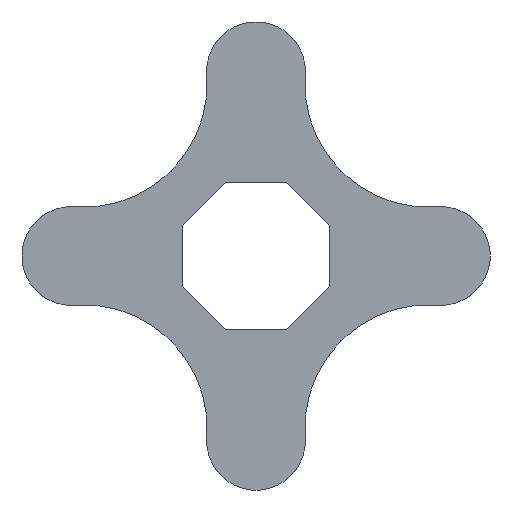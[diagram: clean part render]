
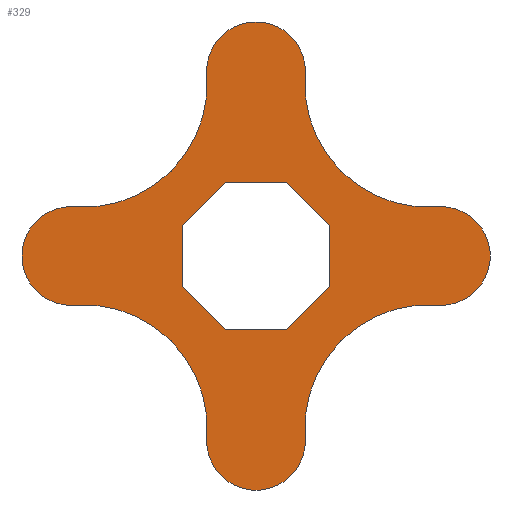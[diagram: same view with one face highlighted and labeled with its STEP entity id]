
A CAD part, front view. The second image highlights one B-rep face of the part: STEP entity #329.
In plain terms, the highlighted planar face has unit normal (0, -1, 0).
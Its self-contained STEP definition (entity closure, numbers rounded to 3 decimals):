
#23=FACE_BOUND('',#108,.T.);
#25=LINE('',#523,#57);
#26=LINE('',#525,#58);
#27=LINE('',#527,#59);
#28=LINE('',#529,#60);
#29=LINE('',#531,#61);
#30=LINE('',#533,#62);
#31=LINE('',#535,#63);
#32=LINE('',#536,#64);
#57=VECTOR('',#421,10.);
#58=VECTOR('',#422,10.);
#59=VECTOR('',#423,10.);
#60=VECTOR('',#424,10.);
#61=VECTOR('',#425,10.);
#62=VECTOR('',#426,10.);
#63=VECTOR('',#427,10.);
#64=VECTOR('',#428,10.);
#89=FACE_OUTER_BOUND('',#107,.T.);
#107=EDGE_LOOP('',(#223,#224,#225,#226,#227,#228,#229,#230));
#108=EDGE_LOOP('',(#231,#232,#233,#234,#235,#236,#237,#238));
#127=CIRCLE('',#368,20.);
#128=CIRCLE('',#369,50.);
#129=CIRCLE('',#370,20.);
#130=CIRCLE('',#371,50.);
#131=CIRCLE('',#372,20.);
#132=CIRCLE('',#373,50.);
#133=CIRCLE('',#374,20.);
#134=CIRCLE('',#375,50.);
#143=VERTEX_POINT('',#505);
#144=VERTEX_POINT('',#506);
#145=VERTEX_POINT('',#508);
#146=VERTEX_POINT('',#510);
#147=VERTEX_POINT('',#512);
#148=VERTEX_POINT('',#514);
#149=VERTEX_POINT('',#516);
#150=VERTEX_POINT('',#518);
#151=VERTEX_POINT('',#521);
#152=VERTEX_POINT('',#522);
#153=VERTEX_POINT('',#524);
#154=VERTEX_POINT('',#526);
#155=VERTEX_POINT('',#528);
#156=VERTEX_POINT('',#530);
#157=VERTEX_POINT('',#532);
#158=VERTEX_POINT('',#534);
#175=EDGE_CURVE('',#143,#144,#127,.T.);
#176=EDGE_CURVE('',#144,#145,#128,.T.);
#177=EDGE_CURVE('',#145,#146,#129,.T.);
#178=EDGE_CURVE('',#146,#147,#130,.T.);
#179=EDGE_CURVE('',#147,#148,#131,.T.);
#180=EDGE_CURVE('',#148,#149,#132,.T.);
#181=EDGE_CURVE('',#149,#150,#133,.T.);
#182=EDGE_CURVE('',#150,#143,#134,.T.);
#183=EDGE_CURVE('',#151,#152,#25,.T.);
#184=EDGE_CURVE('',#152,#153,#26,.T.);
#185=EDGE_CURVE('',#153,#154,#27,.T.);
#186=EDGE_CURVE('',#154,#155,#28,.T.);
#187=EDGE_CURVE('',#155,#156,#29,.T.);
#188=EDGE_CURVE('',#156,#157,#30,.T.);
#189=EDGE_CURVE('',#157,#158,#31,.T.);
#190=EDGE_CURVE('',#158,#151,#32,.T.);
#223=ORIENTED_EDGE('',*,*,#175,.T.);
#224=ORIENTED_EDGE('',*,*,#176,.T.);
#225=ORIENTED_EDGE('',*,*,#177,.T.);
#226=ORIENTED_EDGE('',*,*,#178,.T.);
#227=ORIENTED_EDGE('',*,*,#179,.T.);
#228=ORIENTED_EDGE('',*,*,#180,.T.);
#229=ORIENTED_EDGE('',*,*,#181,.T.);
#230=ORIENTED_EDGE('',*,*,#182,.T.);
#231=ORIENTED_EDGE('',*,*,#183,.T.);
#232=ORIENTED_EDGE('',*,*,#184,.T.);
#233=ORIENTED_EDGE('',*,*,#185,.T.);
#234=ORIENTED_EDGE('',*,*,#186,.T.);
#235=ORIENTED_EDGE('',*,*,#187,.T.);
#236=ORIENTED_EDGE('',*,*,#188,.T.);
#237=ORIENTED_EDGE('',*,*,#189,.T.);
#238=ORIENTED_EDGE('',*,*,#190,.T.);
#319=PLANE('',#367);
#329=ADVANCED_FACE('',(#89,#23),#319,.F.);
#367=AXIS2_PLACEMENT_3D('',#504,#403,#404);
#368=AXIS2_PLACEMENT_3D('',#507,#405,#406);
#369=AXIS2_PLACEMENT_3D('',#509,#407,#408);
#370=AXIS2_PLACEMENT_3D('',#511,#409,#410);
#371=AXIS2_PLACEMENT_3D('',#513,#411,#412);
#372=AXIS2_PLACEMENT_3D('',#515,#413,#414);
#373=AXIS2_PLACEMENT_3D('',#517,#415,#416);
#374=AXIS2_PLACEMENT_3D('',#519,#417,#418);
#375=AXIS2_PLACEMENT_3D('',#520,#419,#420);
#403=DIRECTION('center_axis',(0.,1.,0.));
#404=DIRECTION('ref_axis',(0.,0.,1.));
#405=DIRECTION('center_axis',(0.,-1.,0.));
#406=DIRECTION('ref_axis',(-0.133,0.,0.991));
#407=DIRECTION('center_axis',(0.,1.,0.));
#408=DIRECTION('ref_axis',(-0.074,0.,0.997));
#409=DIRECTION('center_axis',(0.,-1.,0.));
#410=DIRECTION('ref_axis',(-0.991,0.,-0.133));
#411=DIRECTION('center_axis',(0.,1.,0.));
#412=DIRECTION('ref_axis',(-0.997,0.,-0.074));
#413=DIRECTION('center_axis',(0.,-1.,0.));
#414=DIRECTION('ref_axis',(0.133,0.,-0.991));
#415=DIRECTION('center_axis',(0.,1.,0.));
#416=DIRECTION('ref_axis',(0.074,0.,-0.997));
#417=DIRECTION('center_axis',(0.,-1.,0.));
#418=DIRECTION('ref_axis',(0.991,0.,0.133));
#419=DIRECTION('center_axis',(0.,1.,0.));
#420=DIRECTION('ref_axis',(0.997,0.,0.074));
#421=DIRECTION('',(0.,0.,-1.));
#422=DIRECTION('',(-0.707,0.,-0.707));
#423=DIRECTION('',(-1.,0.,0.));
#424=DIRECTION('',(-0.707,0.,0.707));
#425=DIRECTION('',(0.,0.,1.));
#426=DIRECTION('',(0.707,0.,0.707));
#427=DIRECTION('',(1.,0.,0.));
#428=DIRECTION('',(0.707,0.,-0.707));
#504=CARTESIAN_POINT('Origin',(0.,-5.,0.));
#505=CARTESIAN_POINT('',(73.516,-5.,-19.945));
#506=CARTESIAN_POINT('',(73.516,-5.,19.945));
#507=CARTESIAN_POINT('Origin',(75.,-5.,0.));
#508=CARTESIAN_POINT('',(19.945,-5.,73.516));
#509=CARTESIAN_POINT('Origin',(69.807,-5.,69.807));
#510=CARTESIAN_POINT('',(-19.945,-5.,73.516));
#511=CARTESIAN_POINT('Origin',(0.,-5.,75.));
#512=CARTESIAN_POINT('',(-73.516,-5.,19.945));
#513=CARTESIAN_POINT('Origin',(-69.807,-5.,69.807));
#514=CARTESIAN_POINT('',(-73.516,-5.,-19.945));
#515=CARTESIAN_POINT('Origin',(-75.,-5.,0.));
#516=CARTESIAN_POINT('',(-19.945,-5.,-73.516));
#517=CARTESIAN_POINT('Origin',(-69.807,-5.,-69.807));
#518=CARTESIAN_POINT('',(19.945,-5.,-73.516));
#519=CARTESIAN_POINT('Origin',(0.,-5.,-75.));
#520=CARTESIAN_POINT('Origin',(69.807,-5.,-69.807));
#521=CARTESIAN_POINT('',(30.,-5.,12.426));
#522=CARTESIAN_POINT('',(30.,-5.,-12.426));
#523=CARTESIAN_POINT('',(30.,-5.,-12.426));
#524=CARTESIAN_POINT('',(12.426,-5.,-30.));
#525=CARTESIAN_POINT('',(12.426,-5.,-30.));
#526=CARTESIAN_POINT('',(-12.426,-5.,-30.));
#527=CARTESIAN_POINT('',(-12.426,-5.,-30.));
#528=CARTESIAN_POINT('',(-30.,-5.,-12.426));
#529=CARTESIAN_POINT('',(-30.,-5.,-12.426));
#530=CARTESIAN_POINT('',(-30.,-5.,12.426));
#531=CARTESIAN_POINT('',(-30.,-5.,12.426));
#532=CARTESIAN_POINT('',(-12.426,-5.,30.));
#533=CARTESIAN_POINT('',(-12.426,-5.,30.));
#534=CARTESIAN_POINT('',(12.426,-5.,30.));
#535=CARTESIAN_POINT('',(12.426,-5.,30.));
#536=CARTESIAN_POINT('',(30.,-5.,12.426));
